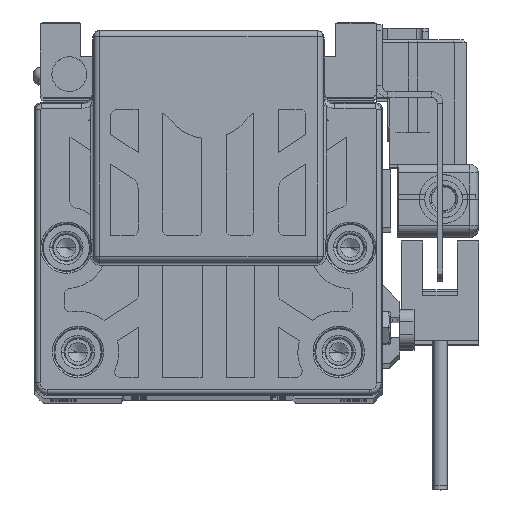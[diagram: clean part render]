
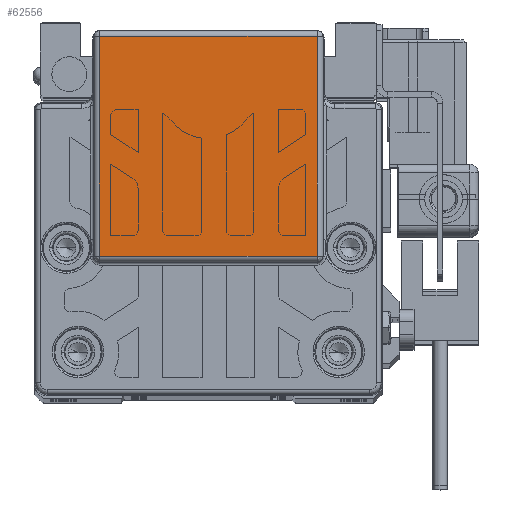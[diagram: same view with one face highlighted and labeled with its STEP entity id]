
A CAD part, top view. The second image highlights one B-rep face of the part: STEP entity #62556.
In plain terms, the highlighted planar face has unit normal (0, 0, 1) as drawn and (0, 0, -1) by its records, which use the part's own axes.
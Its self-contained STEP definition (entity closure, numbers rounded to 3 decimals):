
#1078 = PLANE ( 'NONE',  #46639 ) ;
#1288 = CARTESIAN_POINT ( 'NONE',  ( 19., 24.518, -143. ) ) ;
#3369 = ORIENTED_EDGE ( 'NONE', *, *, #73543, .F. ) ;
#5426 = FACE_OUTER_BOUND ( 'NONE', #28299, .T. ) ;
#8838 = EDGE_CURVE ( 'NONE', #15313, #42664, #47435, .T. ) ;
#9032 = DIRECTION ( 'NONE',  ( 0., -1., 0. ) ) ;
#13100 = LINE ( 'NONE', #73199, #51509 ) ;
#15313 = VERTEX_POINT ( 'NONE', #22245 ) ;
#21166 = CARTESIAN_POINT ( 'NONE',  ( -18.808, 31., -143. ) ) ;
#22245 = CARTESIAN_POINT ( 'NONE',  ( -18.808, 62.447, -143. ) ) ;
#23804 = VECTOR ( 'NONE', #9032, 1000. ) ;
#24064 = EDGE_CURVE ( 'NONE', #40831, #58095, #53597, .T. ) ;
#24879 = CARTESIAN_POINT ( 'NONE',  ( 19., 24.5, -143. ) ) ;
#26583 = VECTOR ( 'NONE', #35686, 1000. ) ;
#28299 = EDGE_LOOP ( 'NONE', ( #30819, #65201, #3369, #62412 ) ) ;
#30819 = ORIENTED_EDGE ( 'NONE', *, *, #54935, .F. ) ;
#35686 = DIRECTION ( 'NONE',  ( 1., 0., 0. ) ) ;
#40831 = VERTEX_POINT ( 'NONE', #59530 ) ;
#42362 = DIRECTION ( 'NONE',  ( 1., 0., 0. ) ) ;
#42664 = VERTEX_POINT ( 'NONE', #70053 ) ;
#44327 = CARTESIAN_POINT ( 'NONE',  ( 18.808, 24.518, -143. ) ) ;
#46639 = AXIS2_PLACEMENT_3D ( 'NONE', #24879, #48676, #72520 ) ;
#47072 = CARTESIAN_POINT ( 'NONE',  ( 19., 62.447, -143. ) ) ;
#47435 = LINE ( 'NONE', #47072, #72428 ) ;
#48568 = DIRECTION ( 'NONE',  ( 0., 1., 0. ) ) ;
#48676 = DIRECTION ( 'NONE',  ( 0., 0., -1. ) ) ;
#51509 = VECTOR ( 'NONE', #48568, 1000. ) ;
#53597 = LINE ( 'NONE', #1288, #26583 ) ;
#54935 = EDGE_CURVE ( 'NONE', #58095, #42664, #13100, .T. ) ;
#58095 = VERTEX_POINT ( 'NONE', #44327 ) ;
#59530 = CARTESIAN_POINT ( 'NONE',  ( -18.808, 24.518, -143. ) ) ;
#62412 = ORIENTED_EDGE ( 'NONE', *, *, #8838, .T. ) ;
#62556 = ADVANCED_FACE ( 'NONE', ( #5426 ), #1078, .T. ) ;
#65201 = ORIENTED_EDGE ( 'NONE', *, *, #24064, .F. ) ;
#68024 = LINE ( 'NONE', #21166, #23804 ) ;
#70053 = CARTESIAN_POINT ( 'NONE',  ( 18.808, 62.447, -143. ) ) ;
#72428 = VECTOR ( 'NONE', #42362, 1000. ) ;
#72520 = DIRECTION ( 'NONE',  ( 0., 1., 0. ) ) ;
#73199 = CARTESIAN_POINT ( 'NONE',  ( 18.808, 24.5, -143. ) ) ;
#73543 = EDGE_CURVE ( 'NONE', #15313, #40831, #68024, .T. ) ;
